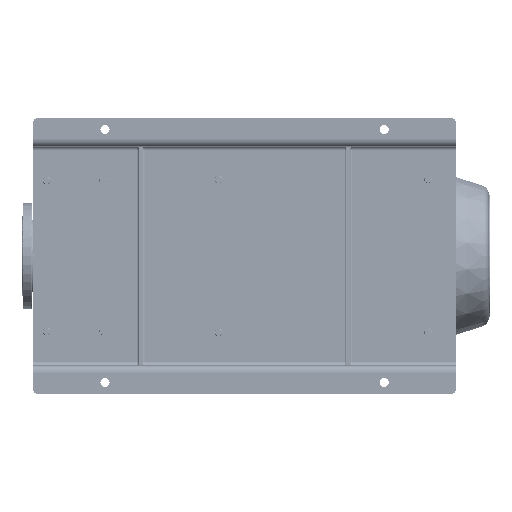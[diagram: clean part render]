
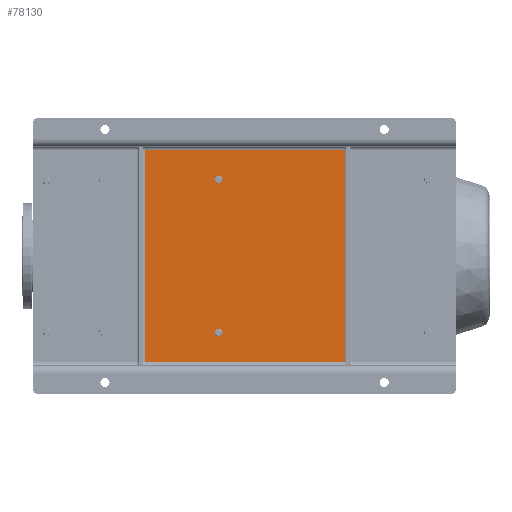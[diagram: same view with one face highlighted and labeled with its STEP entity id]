
A CAD part, front view. The second image highlights one B-rep face of the part: STEP entity #78130.
In plain terms, the highlighted planar face has unit normal (0, -1, 0).
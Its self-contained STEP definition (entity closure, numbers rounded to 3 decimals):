
#650 = CARTESIAN_POINT ( 'NONE',  ( 75., 90., -1120. ) ) ;
#1546 = DIRECTION ( 'NONE',  ( 0., 0., -1. ) ) ;
#3859 = VERTEX_POINT ( 'NONE', #48485 ) ;
#6185 = CARTESIAN_POINT ( 'NONE',  ( 85., 90., -830. ) ) ;
#6606 = VERTEX_POINT ( 'NONE', #27819 ) ;
#10276 = AXIS2_PLACEMENT_3D ( 'NONE', #650, #179719, #59346 ) ;
#14203 = EDGE_LOOP ( 'NONE', ( #173655, #50525, #107636, #104174 ) ) ;
#17650 = CARTESIAN_POINT ( 'NONE',  ( 645., 90., -290. ) ) ;
#25459 = DIRECTION ( 'NONE',  ( 0., 0., 1. ) ) ;
#26019 = AXIS2_PLACEMENT_3D ( 'NONE', #153773, #66085, #37171 ) ;
#27819 = CARTESIAN_POINT ( 'NONE',  ( 162., 90., -481. ) ) ;
#29001 = CARTESIAN_POINT ( 'NONE',  ( 85., 90., -295. ) ) ;
#34371 = EDGE_CURVE ( 'NONE', #184148, #3859, #183410, .T. ) ;
#36292 = CARTESIAN_POINT ( 'NONE',  ( 75., 90., -295. ) ) ;
#36428 = EDGE_LOOP ( 'NONE', ( #115112, #153893 ) ) ;
#37171 = DIRECTION ( 'NONE',  ( 0., 0., -1. ) ) ;
#45217 = EDGE_CURVE ( 'NONE', #100532, #6606, #53406, .T. ) ;
#46500 = DIRECTION ( 'NONE',  ( 0., 0., 1. ) ) ;
#46791 = FACE_BOUND ( 'NONE', #36428, .T. ) ;
#47830 = CARTESIAN_POINT ( 'NONE',  ( 645., 90., -825. ) ) ;
#48485 = CARTESIAN_POINT ( 'NONE',  ( 85., 90., -825. ) ) ;
#50525 = ORIENTED_EDGE ( 'NONE', *, *, #58627, .T. ) ;
#51814 = ORIENTED_EDGE ( 'NONE', *, *, #65598, .T. ) ;
#53406 = CIRCLE ( 'NONE', #118104, 10. ) ;
#58627 = EDGE_CURVE ( 'NONE', #3859, #177412, #98200, .T. ) ;
#59346 = DIRECTION ( 'NONE',  ( 0., 0., -1. ) ) ;
#62183 = VERTEX_POINT ( 'NONE', #69835 ) ;
#62188 = PLANE ( 'NONE',  #10276 ) ;
#65289 = CARTESIAN_POINT ( 'NONE',  ( 568., 90., -501. ) ) ;
#65598 = EDGE_CURVE ( 'NONE', #89383, #85430, #146165, .T. ) ;
#66085 = DIRECTION ( 'NONE',  ( 0., 1., 0. ) ) ;
#69208 = CARTESIAN_POINT ( 'NONE',  ( 568., 90., -481. ) ) ;
#69835 = CARTESIAN_POINT ( 'NONE',  ( 645., 90., -295. ) ) ;
#76994 = VECTOR ( 'NONE', #137440, 1000. ) ;
#78130 = ADVANCED_FACE ( 'NONE', ( #46791, #91144, #132558 ), #62188, .T. ) ;
#78294 = CIRCLE ( 'NONE', #26019, 10. ) ;
#82698 = EDGE_LOOP ( 'NONE', ( #85661, #51814 ) ) ;
#82856 = CARTESIAN_POINT ( 'NONE',  ( 162., 90., -501. ) ) ;
#85430 = VERTEX_POINT ( 'NONE', #69208 ) ;
#85661 = ORIENTED_EDGE ( 'NONE', *, *, #165542, .T. ) ;
#89383 = VERTEX_POINT ( 'NONE', #65289 ) ;
#90110 = CARTESIAN_POINT ( 'NONE',  ( 162., 90., -491. ) ) ;
#91144 = FACE_BOUND ( 'NONE', #82698, .T. ) ;
#95716 = DIRECTION ( 'NONE',  ( 0., 0., -1. ) ) ;
#98200 = LINE ( 'NONE', #156954, #172882 ) ;
#98254 = DIRECTION ( 'NONE',  ( 0., 1., 0. ) ) ;
#99163 = EDGE_CURVE ( 'NONE', #6606, #100532, #78294, .T. ) ;
#100532 = VERTEX_POINT ( 'NONE', #82856 ) ;
#104174 = ORIENTED_EDGE ( 'NONE', *, *, #111116, .T. ) ;
#107636 = ORIENTED_EDGE ( 'NONE', *, *, #119986, .T. ) ;
#109332 = AXIS2_PLACEMENT_3D ( 'NONE', #127578, #156512, #25459 ) ;
#109403 = VECTOR ( 'NONE', #95716, 1000. ) ;
#111116 = EDGE_CURVE ( 'NONE', #62183, #184148, #165452, .T. ) ;
#115112 = ORIENTED_EDGE ( 'NONE', *, *, #99163, .T. ) ;
#118104 = AXIS2_PLACEMENT_3D ( 'NONE', #90110, #133456, #1546 ) ;
#119986 = EDGE_CURVE ( 'NONE', #177412, #62183, #178497, .T. ) ;
#127578 = CARTESIAN_POINT ( 'NONE',  ( 568., 90., -491. ) ) ;
#128976 = DIRECTION ( 'NONE',  ( 1., 0., 0. ) ) ;
#132558 = FACE_OUTER_BOUND ( 'NONE', #14203, .T. ) ;
#133456 = DIRECTION ( 'NONE',  ( 0., 1., 0. ) ) ;
#134310 = CIRCLE ( 'NONE', #149706, 10. ) ;
#137440 = DIRECTION ( 'NONE',  ( -1., 0., 0. ) ) ;
#143505 = CARTESIAN_POINT ( 'NONE',  ( 568., 90., -491. ) ) ;
#146165 = CIRCLE ( 'NONE', #109332, 10. ) ;
#149706 = AXIS2_PLACEMENT_3D ( 'NONE', #143505, #98254, #187796 ) ;
#153773 = CARTESIAN_POINT ( 'NONE',  ( 162., 90., -491. ) ) ;
#153893 = ORIENTED_EDGE ( 'NONE', *, *, #45217, .T. ) ;
#156512 = DIRECTION ( 'NONE',  ( 0., 1., 0. ) ) ;
#156954 = CARTESIAN_POINT ( 'NONE',  ( 75., 90., -825. ) ) ;
#165452 = LINE ( 'NONE', #36292, #76994 ) ;
#165542 = EDGE_CURVE ( 'NONE', #85430, #89383, #134310, .T. ) ;
#172882 = VECTOR ( 'NONE', #128976, 1000. ) ;
#173655 = ORIENTED_EDGE ( 'NONE', *, *, #34371, .T. ) ;
#176655 = VECTOR ( 'NONE', #46500, 1000. ) ;
#177412 = VERTEX_POINT ( 'NONE', #47830 ) ;
#178497 = LINE ( 'NONE', #17650, #176655 ) ;
#179719 = DIRECTION ( 'NONE',  ( 0., -1., 0. ) ) ;
#183410 = LINE ( 'NONE', #6185, #109403 ) ;
#184148 = VERTEX_POINT ( 'NONE', #29001 ) ;
#187796 = DIRECTION ( 'NONE',  ( 0., 0., 1. ) ) ;
